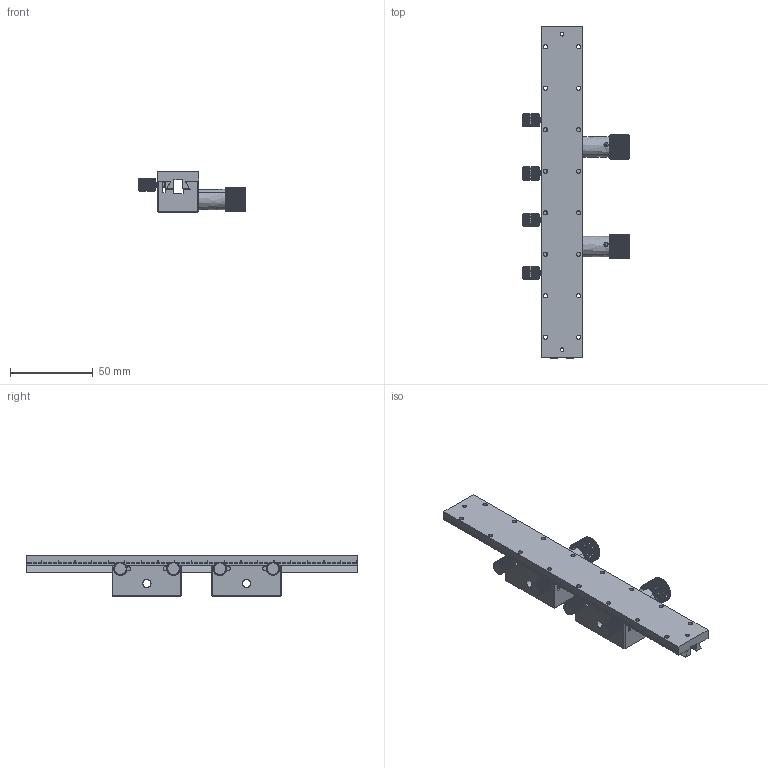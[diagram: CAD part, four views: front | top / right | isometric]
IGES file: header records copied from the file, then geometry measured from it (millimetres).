
Start section: SolidWorks IGES file using analytic representation for surfaces
Bounding box: 64.21 x 200 x 25 mm (x, y, z)
Surface area: 41957.6 mm2 (no closed solid volume)
Topology: 0 solids, 0 shells, 2496 faces, 18352 edges, 18312 vertices
Faces by surface type: bspline 1650, revolution 846
